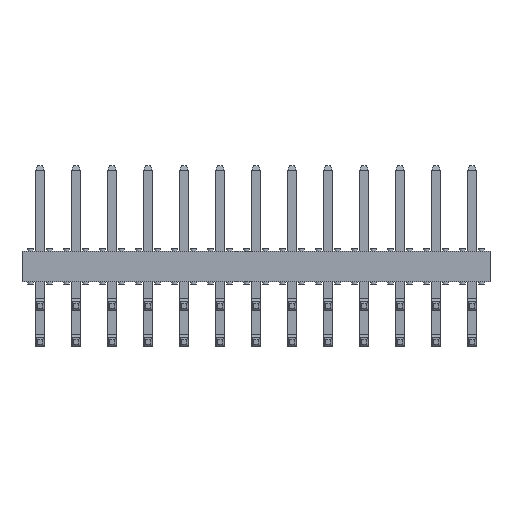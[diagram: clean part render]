
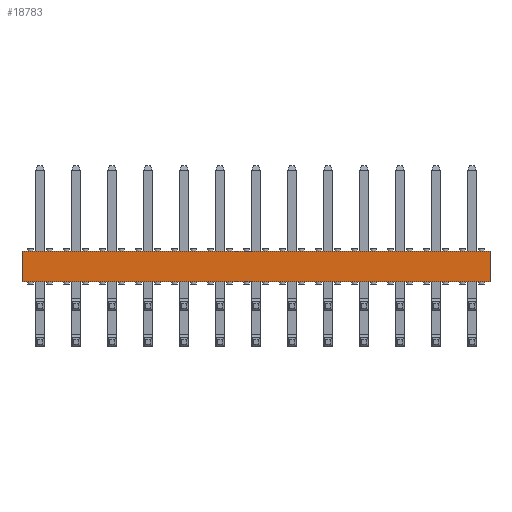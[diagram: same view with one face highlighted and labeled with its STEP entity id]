
A CAD part, front view. The second image highlights one B-rep face of the part: STEP entity #18783.
In plain terms, the highlighted planar face has unit normal (0, -1, 0).
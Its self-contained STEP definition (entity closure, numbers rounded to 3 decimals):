
#241 = EDGE_LOOP ( 'NONE', ( #25305, #11682, #17304, #25239 ) ) ;
#328 = CARTESIAN_POINT ( 'NONE',  ( -16.51, 0., 0.34 ) ) ;
#1966 = VERTEX_POINT ( 'NONE', #4452 ) ;
#2661 = VERTEX_POINT ( 'NONE', #28272 ) ;
#4452 = CARTESIAN_POINT ( 'NONE',  ( 16.51, 0., -1.8 ) ) ;
#5037 = AXIS2_PLACEMENT_3D ( 'NONE', #14640, #16636, #7802 ) ;
#6453 = VECTOR ( 'NONE', #25559, 1000. ) ;
#6936 = CARTESIAN_POINT ( 'NONE',  ( -16.51, 0., -1.8 ) ) ;
#6988 = DIRECTION ( 'NONE',  ( 0., 0., -1. ) ) ;
#7802 = DIRECTION ( 'NONE',  ( 0., 0., 1. ) ) ;
#8579 = VERTEX_POINT ( 'NONE', #328 ) ;
#9434 = LINE ( 'NONE', #27590, #15423 ) ;
#11136 = VECTOR ( 'NONE', #18379, 1000. ) ;
#11682 = ORIENTED_EDGE ( 'NONE', *, *, #21459, .F. ) ;
#13079 = EDGE_CURVE ( 'NONE', #2661, #1966, #16237, .T. ) ;
#13459 = DIRECTION ( 'NONE',  ( 0., 0., -1. ) ) ;
#14640 = CARTESIAN_POINT ( 'NONE',  ( -16.51, 0., 0.34 ) ) ;
#15423 = VECTOR ( 'NONE', #6988, 1000. ) ;
#16237 = LINE ( 'NONE', #6936, #6453 ) ;
#16636 = DIRECTION ( 'NONE',  ( 0., 1., 0. ) ) ;
#17304 = ORIENTED_EDGE ( 'NONE', *, *, #24835, .F. ) ;
#18379 = DIRECTION ( 'NONE',  ( 1., 0., 0. ) ) ;
#18783 = ADVANCED_FACE ( 'NONE', ( #21681 ), #28688, .F. ) ;
#20505 = LINE ( 'NONE', #29653, #24495 ) ;
#20664 = CARTESIAN_POINT ( 'NONE',  ( -16.51, 0., 0.34 ) ) ;
#21459 = EDGE_CURVE ( 'NONE', #21645, #1966, #9434, .T. ) ;
#21519 = LINE ( 'NONE', #20664, #11136 ) ;
#21645 = VERTEX_POINT ( 'NONE', #29395 ) ;
#21681 = FACE_OUTER_BOUND ( 'NONE', #241, .T. ) ;
#24495 = VECTOR ( 'NONE', #13459, 1000. ) ;
#24835 = EDGE_CURVE ( 'NONE', #8579, #21645, #21519, .T. ) ;
#25239 = ORIENTED_EDGE ( 'NONE', *, *, #28033, .T. ) ;
#25305 = ORIENTED_EDGE ( 'NONE', *, *, #13079, .T. ) ;
#25559 = DIRECTION ( 'NONE',  ( 1., 0., 0. ) ) ;
#27590 = CARTESIAN_POINT ( 'NONE',  ( 16.51, 0., 0.34 ) ) ;
#28033 = EDGE_CURVE ( 'NONE', #8579, #2661, #20505, .T. ) ;
#28272 = CARTESIAN_POINT ( 'NONE',  ( -16.51, 0., -1.8 ) ) ;
#28688 = PLANE ( 'NONE',  #5037 ) ;
#29395 = CARTESIAN_POINT ( 'NONE',  ( 16.51, 0., 0.34 ) ) ;
#29653 = CARTESIAN_POINT ( 'NONE',  ( -16.51, 0., 0.34 ) ) ;
